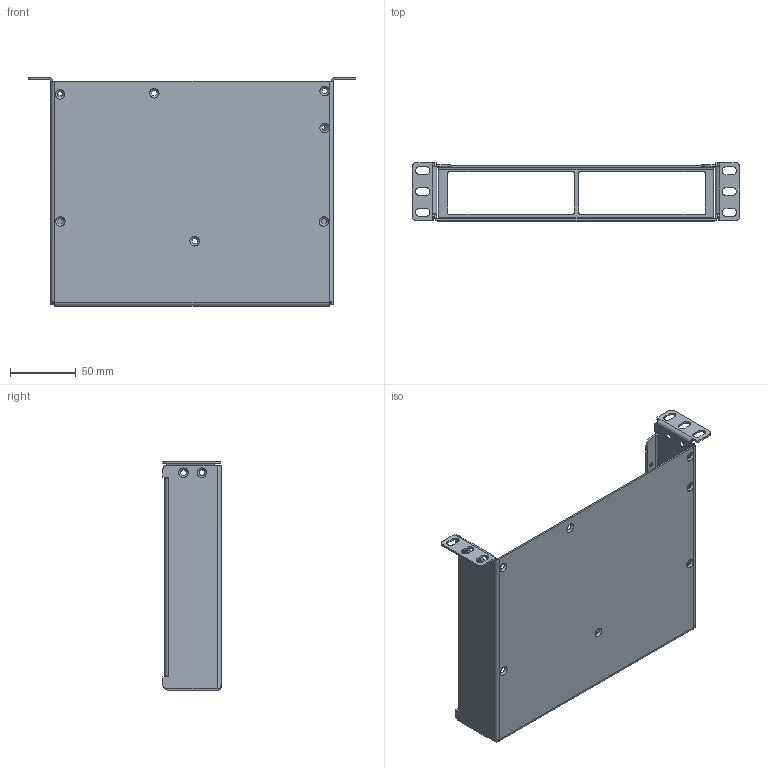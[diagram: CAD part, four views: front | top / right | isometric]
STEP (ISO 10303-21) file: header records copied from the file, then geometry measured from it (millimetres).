
FILE_DESCRIPTION(/* description */ (''),/* implementation_level */ '2;1');
FILE_NAME(/* name */ 'ENERGIS - Bottom Sheetmetal Enclosure.step',/* time_stamp */ '2026-01-27T21:27:26+01:00',/* author */ (''),/* organization */ (''),/* preprocessor_version */ 'ST-DEVELOPER v20.1',/* originating_system */ 'Autodesk Translation Framework v14.21.0.0',/* authorisation */ '');
FILE_SCHEMA (('AUTOMOTIVE_DESIGN { 1 0 10303 214 3 1 1 }'));
Length unit declared in the file: millimetre
Products named in the file (2): ENERGIS- Sheetmetal Enclosure; Bottom2
Assembly tree (1 placements, depth 2):
  ENERGIS- Sheetmetal Enclosure
    Bottom2
Bounding box: 249.41 x 44.4 x 174.33 mm (x, y, z)
Volume: 87615.1 mm3; surface area: 120215.1 mm2
Topology: 3 solids, 3 shells, 287 faces, 779 edges, 498 vertices
Faces by surface type: cylinder 114, plane 111, bspline 62
Full cylindrical faces by diameter (mm): 2.529 x16
Entity records: 16793 total; most frequent: CARTESIAN_POINT 9927, ORIENTED_EDGE 1558, DIRECTION 1130, EDGE_CURVE 779, VERTEX_POINT 498, AXIS2_PLACEMENT_3D 379, LINE 372, VECTOR 372
